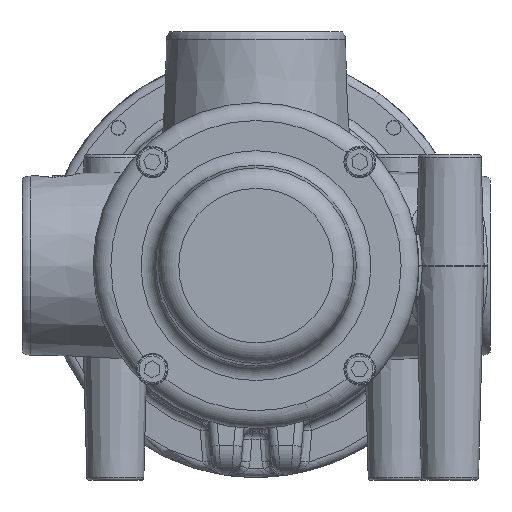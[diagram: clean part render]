
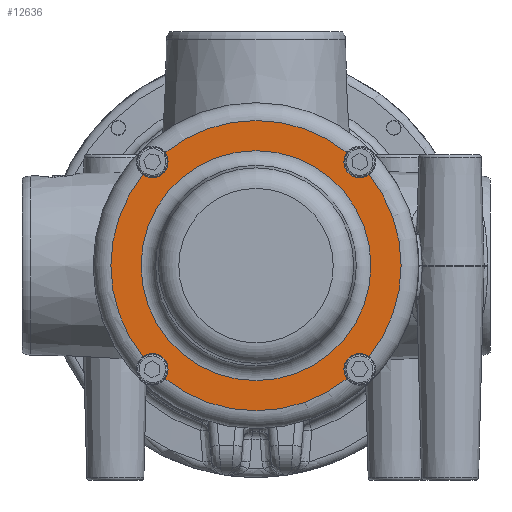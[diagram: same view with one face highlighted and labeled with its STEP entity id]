
A CAD part, front view. The second image highlights one B-rep face of the part: STEP entity #12636.
In plain terms, the highlighted planar face has unit normal (0, -1, 0).
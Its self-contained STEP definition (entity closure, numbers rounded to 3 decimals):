
#200=FACE_BOUND('',#2117,.T.);
#664=CIRCLE('',#13461,5.308);
#665=CIRCLE('',#13463,5.308);
#666=CIRCLE('',#13464,5.308);
#667=CIRCLE('',#13466,5.308);
#668=CIRCLE('',#13467,5.308);
#669=CIRCLE('',#13469,5.308);
#673=CIRCLE('',#13474,49.);
#674=CIRCLE('',#13475,49.);
#675=CIRCLE('',#13476,49.);
#676=CIRCLE('',#13477,49.);
#677=CIRCLE('',#13478,49.);
#689=CIRCLE('',#13493,38.818);
#690=CIRCLE('',#13494,38.818);
#1349=FACE_OUTER_BOUND('',#2116,.T.);
#2116=EDGE_LOOP('',(#7943,#7944,#7945,#7946,#7947,#7948,#7949,#7950,#7951,
#7952,#7953));
#2117=EDGE_LOOP('',(#7954,#7955));
#4754=VERTEX_POINT('',#18088);
#4755=VERTEX_POINT('',#18113);
#4756=VERTEX_POINT('',#18124);
#4757=VERTEX_POINT('',#18126);
#4758=VERTEX_POINT('',#18128);
#4759=VERTEX_POINT('',#18161);
#4760=VERTEX_POINT('',#18163);
#4761=VERTEX_POINT('',#18165);
#4763=VERTEX_POINT('',#18200);
#4764=VERTEX_POINT('',#18211);
#4768=VERTEX_POINT('',#18241);
#4777=VERTEX_POINT('',#18270);
#4778=VERTEX_POINT('',#18272);
#5979=EDGE_CURVE('',#4755,#4754,#664,.T.);
#5982=EDGE_CURVE('',#4757,#4756,#665,.T.);
#5984=EDGE_CURVE('',#4756,#4758,#666,.T.);
#5986=EDGE_CURVE('',#4760,#4759,#667,.T.);
#5988=EDGE_CURVE('',#4759,#4761,#668,.T.);
#5991=EDGE_CURVE('',#4764,#4763,#669,.T.);
#5996=EDGE_CURVE('',#4768,#4761,#673,.T.);
#5997=EDGE_CURVE('',#4760,#4758,#674,.T.);
#5998=EDGE_CURVE('',#4757,#4754,#675,.T.);
#5999=EDGE_CURVE('',#4755,#4763,#676,.T.);
#6000=EDGE_CURVE('',#4764,#4768,#677,.T.);
#6013=EDGE_CURVE('',#4778,#4777,#689,.T.);
#6014=EDGE_CURVE('',#4777,#4778,#690,.T.);
#7943=ORIENTED_EDGE('',*,*,#5979,.T.);
#7944=ORIENTED_EDGE('',*,*,#5998,.F.);
#7945=ORIENTED_EDGE('',*,*,#5982,.T.);
#7946=ORIENTED_EDGE('',*,*,#5984,.T.);
#7947=ORIENTED_EDGE('',*,*,#5997,.F.);
#7948=ORIENTED_EDGE('',*,*,#5986,.T.);
#7949=ORIENTED_EDGE('',*,*,#5988,.T.);
#7950=ORIENTED_EDGE('',*,*,#5996,.F.);
#7951=ORIENTED_EDGE('',*,*,#6000,.F.);
#7952=ORIENTED_EDGE('',*,*,#5991,.T.);
#7953=ORIENTED_EDGE('',*,*,#5999,.F.);
#7954=ORIENTED_EDGE('',*,*,#6013,.T.);
#7955=ORIENTED_EDGE('',*,*,#6014,.T.);
#11624=PLANE('',#13495);
#12636=ADVANCED_FACE('',(#1349,#200),#11624,.T.);
#13461=AXIS2_PLACEMENT_3D('',#18114,#14791,#14792);
#13463=AXIS2_PLACEMENT_3D('',#18127,#14796,#14797);
#13464=AXIS2_PLACEMENT_3D('',#18159,#14798,#14799);
#13466=AXIS2_PLACEMENT_3D('',#18164,#14803,#14804);
#13467=AXIS2_PLACEMENT_3D('',#18196,#14805,#14806);
#13469=AXIS2_PLACEMENT_3D('',#18212,#14810,#14811);
#13474=AXIS2_PLACEMENT_3D('',#18243,#14820,#14821);
#13475=AXIS2_PLACEMENT_3D('',#18244,#14822,#14823);
#13476=AXIS2_PLACEMENT_3D('',#18245,#14824,#14825);
#13477=AXIS2_PLACEMENT_3D('',#18246,#14826,#14827);
#13478=AXIS2_PLACEMENT_3D('',#18247,#14828,#14829);
#13493=AXIS2_PLACEMENT_3D('',#18273,#14859,#14860);
#13494=AXIS2_PLACEMENT_3D('',#18274,#14861,#14862);
#13495=AXIS2_PLACEMENT_3D('',#18275,#14863,#14864);
#14791=DIRECTION('center_axis',(0.,1.,0.));
#14792=DIRECTION('ref_axis',(-1.,0.,0.));
#14796=DIRECTION('center_axis',(0.,1.,0.));
#14797=DIRECTION('ref_axis',(-1.,0.,0.));
#14798=DIRECTION('center_axis',(0.,1.,0.));
#14799=DIRECTION('ref_axis',(-1.,0.,0.));
#14803=DIRECTION('center_axis',(0.,1.,0.));
#14804=DIRECTION('ref_axis',(-1.,0.,0.));
#14805=DIRECTION('center_axis',(0.,1.,0.));
#14806=DIRECTION('ref_axis',(-1.,0.,0.));
#14810=DIRECTION('center_axis',(0.,1.,0.));
#14811=DIRECTION('ref_axis',(-1.,0.,0.));
#14820=DIRECTION('center_axis',(0.,1.,0.));
#14821=DIRECTION('ref_axis',(-1.,0.,0.));
#14822=DIRECTION('center_axis',(0.,1.,0.));
#14823=DIRECTION('ref_axis',(-1.,0.,0.));
#14824=DIRECTION('center_axis',(0.,1.,0.));
#14825=DIRECTION('ref_axis',(-1.,0.,0.));
#14826=DIRECTION('center_axis',(0.,1.,0.));
#14827=DIRECTION('ref_axis',(-1.,0.,0.));
#14828=DIRECTION('center_axis',(0.,1.,0.));
#14829=DIRECTION('ref_axis',(-1.,0.,0.));
#14859=DIRECTION('center_axis',(0.,1.,0.));
#14860=DIRECTION('ref_axis',(-1.,0.,0.));
#14861=DIRECTION('center_axis',(0.,1.,0.));
#14862=DIRECTION('ref_axis',(-1.,0.,0.));
#14863=DIRECTION('center_axis',(0.,-1.,0.));
#14864=DIRECTION('ref_axis',(0.,0.,
-1.));
#18088=CARTESIAN_POINT('',(30.736,-7.,38.161));
#18113=CARTESIAN_POINT('',(38.161,-7.,30.736));
#18114=CARTESIAN_POINT('Origin',(35.,-7.,35.));
#18124=CARTESIAN_POINT('',(-29.692,-7.,35.));
#18126=CARTESIAN_POINT('',(-30.736,-7.,38.161));
#18127=CARTESIAN_POINT('Origin',(-35.,-7.,35.));
#18128=CARTESIAN_POINT('',(-38.161,-7.,30.736));
#18159=CARTESIAN_POINT('Origin',(-35.,-7.,35.));
#18161=CARTESIAN_POINT('',(-29.692,-7.,-35.));
#18163=CARTESIAN_POINT('',(-38.161,-7.,-30.736));
#18164=CARTESIAN_POINT('Origin',(-35.,-7.,-35.));
#18165=CARTESIAN_POINT('',(-30.736,-7.,-38.161));
#18196=CARTESIAN_POINT('Origin',(-35.,-7.,-35.));
#18200=CARTESIAN_POINT('',(38.161,-7.,-30.736));
#18211=CARTESIAN_POINT('',(30.736,-7.,-38.161));
#18212=CARTESIAN_POINT('Origin',(35.,-7.,-35.));
#18241=CARTESIAN_POINT('',(0.,-7.,-49.));
#18243=CARTESIAN_POINT('Origin',(0.,-7.,
0.));
#18244=CARTESIAN_POINT('Origin',(0.,-7.,
0.));
#18245=CARTESIAN_POINT('Origin',(0.,-7.,
0.));
#18246=CARTESIAN_POINT('Origin',(0.,-7.,
0.));
#18247=CARTESIAN_POINT('Origin',(0.,-7.,
0.));
#18270=CARTESIAN_POINT('',(0.,-7.,-38.818));
#18272=CARTESIAN_POINT('',(-38.818,-7.,0.));
#18273=CARTESIAN_POINT('Origin',(0.,-7.,
0.));
#18274=CARTESIAN_POINT('Origin',(0.,-7.,
0.));
#18275=CARTESIAN_POINT('Origin',(-43.909,-7.,0.));
